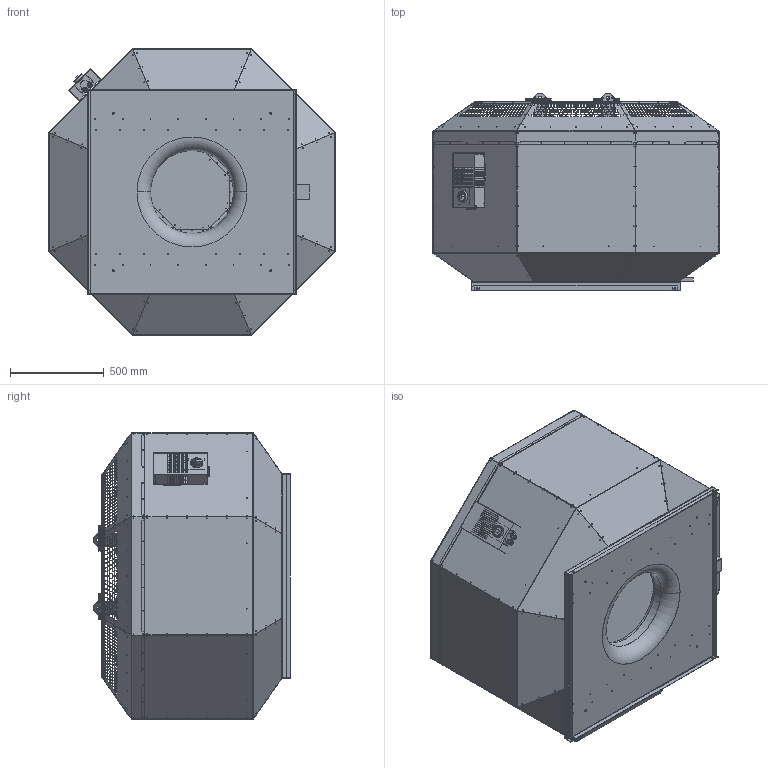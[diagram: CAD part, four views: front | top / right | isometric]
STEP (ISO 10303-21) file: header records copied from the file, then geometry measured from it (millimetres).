
FILE_DESCRIPTION (( 'STEP AP203' ), '1' );
FILE_NAME ('144626-00_DVNI710D6F430_step.step', '2018-12-21T06:56:30', ( '' ), ( '' ), 'SwSTEP 2.0', 'SolidWorks 2017', '' );
FILE_SCHEMA (( 'CONFIG_CONTROL_DESIGN' ));
Length unit declared in the file: millimetre
Products named in the file (1): 144626-00_DVNI710D6F430_step
Bounding box: 1525 x 1048.2 x 1525 mm (x, y, z)
Surface area: 15342155.2 mm2 (no closed solid volume)
Topology: 0 solids, 82 shells, 3276 faces, 25409 edges, 21043 vertices
Faces by surface type: plane 2838, cylinder 411, torus 15, bspline 7, cone 5
Entity records: 244499 total; most frequent: CARTESIAN_POINT 54177, DIRECTION 34533, ORIENTED_EDGE 31847, EDGE_CURVE 25409, LINE 22311, VECTOR 22311, VERTEX_POINT 21043, EDGE_LOOP 8473
